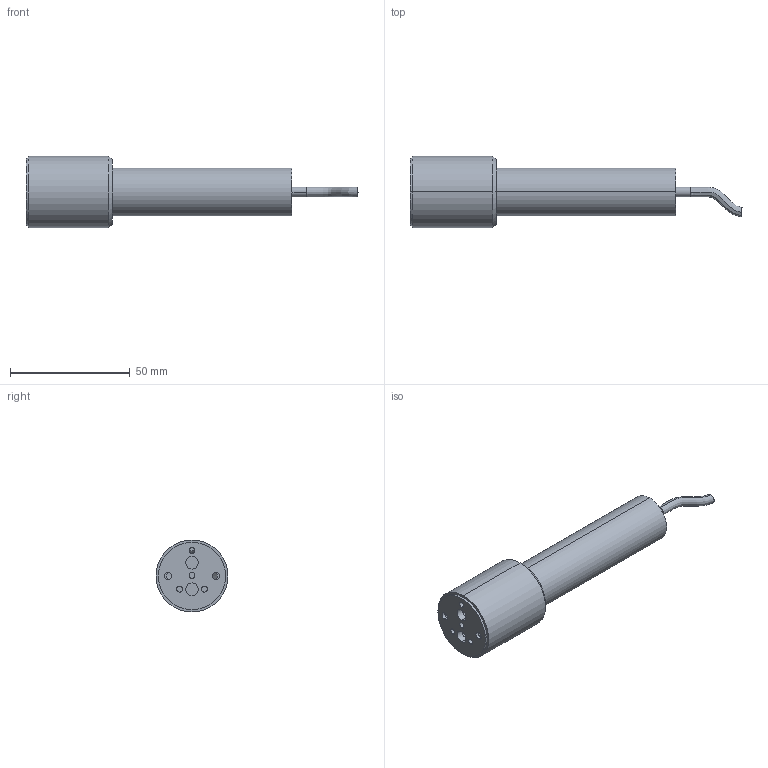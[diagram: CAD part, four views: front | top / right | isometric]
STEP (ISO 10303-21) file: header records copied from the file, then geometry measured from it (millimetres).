
FILE_DESCRIPTION (( 'STEP AP203' ), '1' );
FILE_NAME ('SENSORE LASER LT1S20CR CAVO (A2-B2).STEP', '2021-06-09T11:15:58', ( '' ), ( '' ), 'SwSTEP 2.0', 'SolidWorks 2019', '' );
FILE_SCHEMA (( 'CONFIG_CONTROL_DESIGN' ));
Length unit declared in the file: millimetre
Products named in the file (3): 26574-10 - Involucro Ø20-30 - PER ASSIEME_Default<A macchina>; SENSORE LASER LT1S20CR CAVO (A2-B2); 26634-10 - Coperchio regolazione ottiche - Anodizzato nero lucido_Default<A macchina>
Assembly tree (2 placements, depth 2):
  SENSORE LASER LT1S20CR CAVO (A2-B2)
    26574-10 - Involucro Ø20-30 - PER ASSIEME_Default<A macchina>
    26634-10 - Coperchio regolazione ottiche - Anodizzato nero lucido_Default<A macchina>
Bounding box: 138.58 x 30 x 30 mm (x, y, z)
Volume: 13643.6 mm3; surface area: 18101.8 mm2
Topology: 2 solids, 2 shells, 46 faces, 106 edges, 68 vertices
Faces by surface type: cylinder 28, cone 8, plane 8, bspline 2
Entity records: 2071 total; most frequent: CARTESIAN_POINT 637, DIRECTION 270, ORIENTED_EDGE 212, AXIS2_PLACEMENT_3D 117, EDGE_CURVE 106, CIRCLE 68, VERTEX_POINT 68, EDGE_LOOP 66
